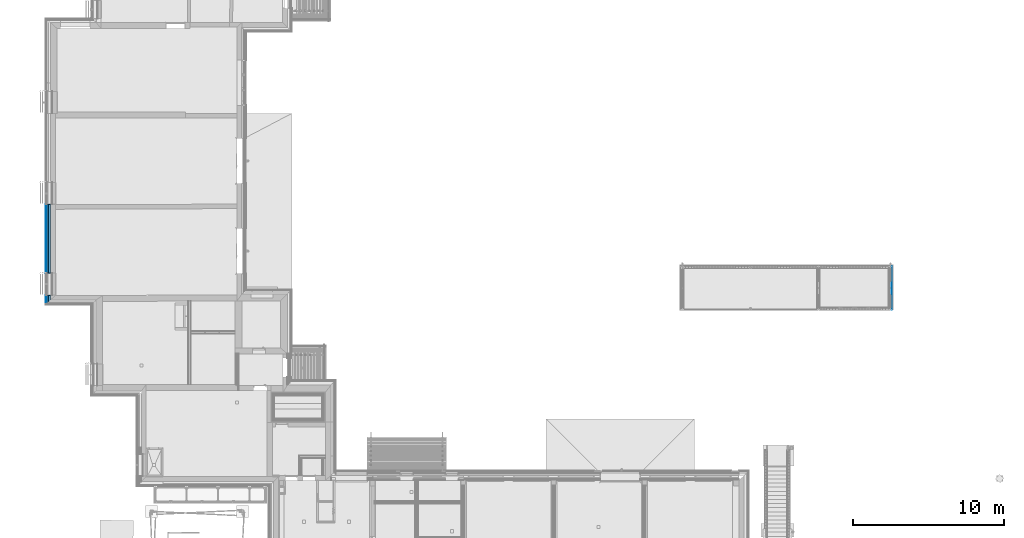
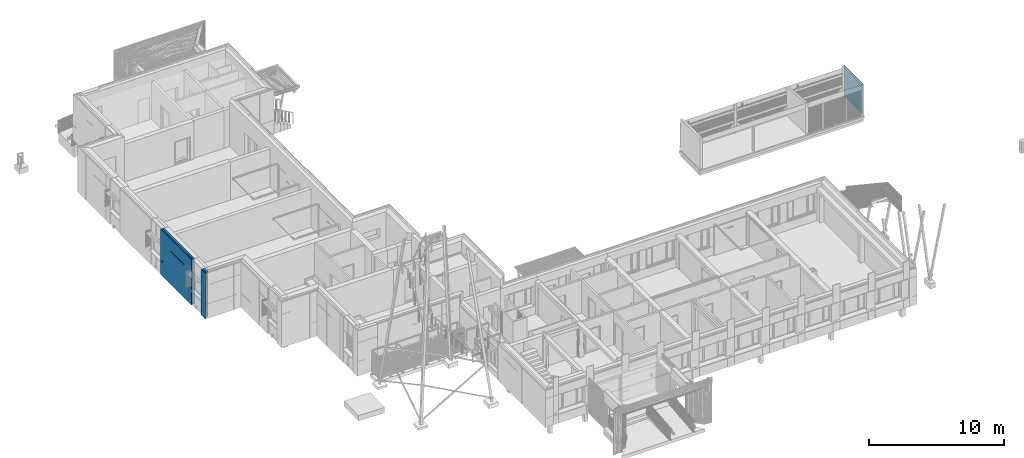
# One storey, part 126 of 418: 5 building element parts, 6 openings, 2 elements without a shape of their own.
"""IFC2X3 building model written with IfcOpenShell, lengths in millimetres."""

from ifc_helpers import new_model, entity, si_unit, converted_unit, derived_unit, money_unit, direction, frame, origin_with_axes, origin_2d_with_axis, place, context, subcontext, project, spatial, polyline, rectangle, outline, extrude, boolean, faceted_brep, material, type_object, element, aggregate, save


model = new_model("IFC2X3")

# Units and contexts
model_context = context("Model", 3, precision=0.01, world=origin_with_axes(), true_north=direction((0.0, 1.0)))
body_context = subcontext(model_context, "Body", "Model", "MODEL_VIEW")
ifc_project = project(units=[si_unit("LENGTHUNIT", "METRE", prefix="MILLI"), si_unit("AREAUNIT", "SQUARE_METRE"), si_unit("VOLUMEUNIT", "CUBIC_METRE"), converted_unit("PLANEANGLEUNIT", "DEGREE", entity("IfcPlaneAngleMeasure", 0.0174532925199), si_unit("PLANEANGLEUNIT", "RADIAN"), dimensions=[0, 0, 0, 0, 0, 0, 0]), si_unit("SOLIDANGLEUNIT", "STERADIAN"), money_unit("EUR"), converted_unit("TIMEUNIT", "Year", entity("IfcTimeMeasure", 31556926.0), si_unit("TIMEUNIT", "SECOND"), dimensions=[0, 0, 1, 0, 0, 0, 0]), si_unit("MASSUNIT", "GRAM", prefix="KILO"), si_unit("THERMODYNAMICTEMPERATUREUNIT", "DEGREE_CELSIUS"), si_unit("LUMINOUSINTENSITYUNIT", "LUMEN"), si_unit("ENERGYUNIT", "JOULE", prefix="MEGA"), derived_unit("THERMALCONDUCTANCEUNIT", [(si_unit("POWERUNIT", "WATT"), 1), (si_unit("LENGTHUNIT", "METRE"), -1), (si_unit("THERMODYNAMICTEMPERATUREUNIT", "KELVIN"), -1)]), derived_unit("SPECIFICHEATCAPACITYUNIT", [(si_unit("ENERGYUNIT", "JOULE"), 1), (si_unit("MASSUNIT", "GRAM", prefix="KILO"), -1), (si_unit("THERMODYNAMICTEMPERATUREUNIT", "KELVIN"), -1)]), derived_unit("MASSDENSITYUNIT", [(si_unit("MASSUNIT", "GRAM", prefix="KILO"), 1), (si_unit("VOLUMEUNIT", "CUBIC_METRE"), -1)])], contexts=[model_context])

# Site, building, storey
site_placement = place(None, origin_with_axes())
site = spatial("IfcSite", under=ifc_project, at=site_placement, Name="Paldiski mnt 245/1, Tallinn, Harjumaa", CompositionType="COMPLEX")
building_placement = place(site_placement, origin_with_axes())
building = spatial("IfcBuilding", under=site, at=building_placement, Name="RKAS Hoone üldnimetus (kasutust iseloomustav) -> IFC Project Manager -> SOLIBRI", CompositionType="ELEMENT")
storey_placement = place(building_placement, origin_with_axes())
storey = spatial("IfcBuildingStorey", under=building, at=storey_placement, Name="Esimene korrus", CompositionType="ELEMENT", Elevation=0.0)

# Wall, openings, building element parts
wall_type = type_object("IfcWallType", Name="VS-03H_uued_kihid 300", PredefinedType="NOTDEFINED")
wall_placement = place(storey_placement, frame((-62730.0, 11799.8287244, 0.0), z_axis=(0.0, 0.0, 1.0), x_axis=(0.0, 1.0, 0.0)))
wall = element("IfcWall", 1, at=wall_placement, inside=storey, type_object=wall_type, Name="VS-03")
opening_1_placement = place(wall_placement, frame((2855.0, 0.0, 0.0), z_axis=(0.0, 0.0, 1.0), x_axis=(1.0, 0.0, 0.0)))
element("IfcOpeningElement", 2, at=opening_1_placement, cuts=wall, Name="Cembrit fassaadiplaadi vuuk", context=body_context, shape_type="SweptSolid", body=[
    extrude(outline(polyline([(-4.0, 0.0), (4.0, 0.0), (4.0, 4090.0), (-4.0, 4090.0), (-4.0, 0.0)])), frame((0.0, 292.0, 0.0), z_axis=(0.0, -1.0, 0.0), x_axis=(1.0, 0.0, 0.0)), (0.0, 0.0, -1.0), 308.0),
])
opening_2_placement = place(wall_placement, frame((4055.0, -1.20792265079e-10, 0.0), z_axis=(0.0, 0.0, 1.0), x_axis=(1.0, 0.0, 0.0)))
element("IfcOpeningElement", 3, at=opening_2_placement, cuts=wall, Name="Cembrit fassaadiplaadi vuuk", context=body_context, shape_type="SweptSolid", body=[
    extrude(outline(polyline([(-4.0, 0.0), (4.0, 0.0), (4.0, 4090.0), (-4.0, 4090.0), (-4.0, 0.0)])), frame((0.0, 292.0, 0.0), z_axis=(0.0, -1.0, 0.0), x_axis=(1.0, 0.0, 0.0)), (0.0, 0.0, -1.0), 308.0),
])
opening_3_placement = place(wall_placement, frame((5255.0, -1.56319401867e-10, 0.0), z_axis=(0.0, 0.0, 1.0), x_axis=(1.0, 0.0, 0.0)))
element("IfcOpeningElement", 4, at=opening_3_placement, cuts=wall, Name="Cembrit fassaadiplaadi vuuk", context=body_context, shape_type="SweptSolid", body=[
    extrude(outline(polyline([(-4.0, 0.0), (4.0, 0.0), (4.0, 4090.0), (-4.0, 4090.0), (-4.0, 0.0)])), frame((0.0, 292.0, 0.0), z_axis=(0.0, -1.0, 0.0), x_axis=(1.0, 0.0, 0.0)), (0.0, 0.0, -1.0), 308.0),
])
opening_4_placement = place(wall_placement, frame((3015.00003798, 0.0, 2990.0), z_axis=(0.0, 0.0, 1.0), x_axis=(1.0, 0.0, 0.0)))
element("IfcOpeningElement", 5, at=opening_4_placement, cuts=wall, Name="Cembrit fassaadiplaadi vuuk", context=body_context, shape_type="SweptSolid", body=[
    extrude(outline(polyline([(-3315.00003798, 0.0), (3315.00003798, 0.0), (3315.00003798, 8.0), (-3315.00003798, 8.0), (-3315.00003798, 0.0)])), frame((0.0, 292.0, 0.0), z_axis=(0.0, -1.0, 0.0), x_axis=(1.0, 0.0, 0.0)), (0.0, 0.0, -1.0), 308.0),
])
opening_5_placement = place(wall_placement, frame((3015.00003798, 0.0, 1290.0), z_axis=(0.0, 0.0, 1.0), x_axis=(1.0, 0.0, 0.0)))
element("IfcOpeningElement", 6, at=opening_5_placement, cuts=wall, Name="Cembrit fassaadiplaadi vuuk", context=body_context, shape_type="SweptSolid", body=[
    extrude(outline(polyline([(-3315.00003798, 0.0), (3315.00003798, 0.0), (3315.00003798, 8.0), (-3315.00003798, 8.0), (-3315.00003798, 0.0)])), frame((0.0, 292.0, 0.0), z_axis=(0.0, -1.0, 0.0), x_axis=(1.0, 0.0, 0.0)), (0.0, 0.0, -1.0), 308.0),
])
opening_6_placement = place(wall_placement, frame((-11799.8287244, -62730.0, 0.0), z_axis=(0.0, 0.0, 1.0), x_axis=(0.0, -1.0, 0.0)))
element("IfcOpeningElement", 7, at=opening_6_placement, cuts=wall, Name="AVA", ObjectType="OPENING", context=body_context, shape_type="SweptSolid", body=[
    extrude(rectangle(XDim=1450.0, YDim=4090.0, at=origin_2d_with_axis()), frame((-62730.0, 12854.8287244, 2045.0), z_axis=(1.0, 0.0, 0.0), x_axis=(0.0, 1.0, 0.0)), (0.0, 0.0, -1.0), 600.0),
])
ifc_material_1 = material(Name="Cembrit_C020")
building_element_part_1_placement = place(wall_placement, origin_with_axes())
building_element_part_1 = element("IfcBuildingElementPart", 8, at=building_element_part_1_placement, material=ifc_material_1, Name="Cembrit_C020", context=body_context, shape_type="CSG", body=[
    boolean("DIFFERENCE", boolean("DIFFERENCE", boolean("DIFFERENCE", boolean("DIFFERENCE", boolean("DIFFERENCE", boolean("DIFFERENCE", boolean("DIFFERENCE", extrude(outline(polyline([(-300.0, 292.0), (6330.00007596, 292.0), (6330.00007596, 300.0), (-300.0, 300.0), (-300.0, 292.0)])), origin_with_axes(), (0.0, 0.0, 1.0), 4090.0), faceted_brep([(1002.51939453, 300.00961541, 170.0), (1002.51939453, 300.00961541, 350.0), (1099.48094513, 300.00961541, 350.0), (1099.48094513, 300.00961541, 170.0), (1005.43465613, 292.0, 170.0), (1005.43465613, 292.0, 350.0), (1096.56568353, 292.0, 350.0), (1096.56568353, 292.0, 170.0)], [[[0, 1, 2, 3]], [[4, 5, 1, 0]], [[5, 6, 2, 1]], [[6, 7, 3, 2]], [[7, 4, 0, 3]], [[4, 7, 6, 5]]])), faceted_brep([(1005.43465613, 292.0, 170.0), (1005.43465613, 292.0, 350.0), (1096.56568353, 292.0, 350.0), (1096.56568353, 292.0, 170.0), (1005.51168305, 291.788370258, 170.0), (1005.51168305, 291.788370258, 350.0), (1009.88611623, 284.211629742, 350.0), (1015.50977912, 277.509609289, 350.0), (1022.21179957, 271.885946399, 350.0), (1029.78854009, 267.511513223, 350.0), (1038.00978524, 264.519224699, 350.0), (1046.62573665, 263.0, 350.0), (1051.00016983, 263.0, 350.0), (1055.37460301, 263.0, 350.0), (1063.99055442, 264.519224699, 350.0), (1072.21179957, 267.511513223, 350.0), (1079.78854009, 271.885946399, 350.0), (1086.49056054, 277.509609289, 350.0), (1092.11422343, 284.211629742, 350.0), (1096.48865661, 291.788370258, 350.0), (1096.48865661, 291.788370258, 170.0), (1092.11422343, 284.211629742, 170.0), (1086.49056054, 277.509609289, 170.0), (1079.78854009, 271.885946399, 170.0), (1072.21179957, 267.511513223, 170.0), (1063.99055442, 264.519224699, 170.0), (1055.37460301, 263.0, 170.0), (1051.00016983, 263.0, 170.0), (1046.62573665, 263.0, 170.0), (1038.00978524, 264.519224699, 170.0), (1029.78854009, 267.511513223, 170.0), (1022.21179957, 271.885946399, 170.0), (1015.50977912, 277.509609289, 170.0), (1009.88611623, 284.211629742, 170.0)], [[[0, 1, 2, 3]], [[1, 0, 4, 5]], [[2, 1, 5, 6, 7, 8, 9, 10, 11, 12, 13, 14, 15, 16, 17, 18, 19]], [[3, 2, 19, 20]], [[0, 3, 20, 21, 22, 23, 24, 25, 26, 27, 28, 29, 30, 31, 32, 33, 4]], [[4, 33, 6, 5]], [[33, 32, 7, 6]], [[32, 31, 8, 7]], [[31, 30, 9, 8]], [[30, 29, 10, 9]], [[29, 28, 11, 10]], [[28, 27, 12, 11]], [[27, 26, 13, 12]], [[26, 25, 14, 13]], [[25, 24, 15, 14]], [[24, 23, 16, 15]], [[23, 22, 17, 16]], [[22, 21, 18, 17]], [[21, 20, 19, 18]]])), faceted_brep([(-292.0, 250.0, 0.0), (-292.0, 250.0, 4090.0), (-300.0, 250.0, 4090.0), (-300.0, 250.0, 0.0), (-292.0, 292.0, 4090.0), (-292.0, 292.0, 0.0), (-300.0, 292.0, 4090.0), (-300.0, 292.0, 0.0)], [[[0, 1, 2, 3]], [[4, 1, 0, 5]], [[1, 4, 6, 2]], [[6, 7, 3, 2]], [[5, 0, 3, 7]], [[4, 5, 7, 6]]])), faceted_brep([(1006.00016983, 250.0, 200.0), (1096.00016983, 250.0, 200.0), (1096.00016983, 250.0, 320.0), (1006.00016983, 250.0, 320.0), (1006.00016983, 260.0, 200.0), (1096.00016983, 260.0, 200.0), (1096.00016983, 260.0, 320.0), (1006.00016983, 260.0, 320.0)], [[[0, 1, 2, 3]], [[1, 0, 4, 5]], [[2, 1, 5, 6]], [[3, 2, 6, 7]], [[0, 3, 7, 4]], [[5, 4, 7, 6]]])), faceted_brep([(1006.00016983, 250.0, 200.0), (1006.00016983, 250.0, 320.0), (1096.00016983, 250.0, 320.0), (1096.00016983, 250.0, 200.0), (1006.00016983, 210.0, 200.0), (1006.00016983, 210.0, 320.0), (1096.00016983, 210.0, 320.0), (1096.00016983, 210.0, 200.0)], [[[0, 1, 2, 3]], [[1, 0, 4, 5]], [[2, 1, 5, 6]], [[3, 2, 6, 7]], [[0, 3, 7, 4]], [[7, 6, 5, 4]]])), faceted_brep([(-250.0, 150.0, 0.0), (-250.0, 150.0, 4090.0), (-300.0, 150.0, 4090.0), (-300.0, 150.0, 0.0), (-250.0, 250.0, 4090.0), (-250.0, 250.0, 0.0), (-300.0, 250.0, 4090.0), (-300.0, 250.0, 0.0)], [[[0, 1, 2, 3]], [[4, 1, 0, 5]], [[1, 4, 6, 2]], [[6, 7, 3, 2]], [[5, 0, 3, 7]], [[4, 5, 7, 6]]])), faceted_brep([(-150.0, 0.0, 0.0), (-150.0, 0.0, 4090.0), (-300.0, 0.0, 4090.0), (-300.0, 0.0, 0.0), (-150.0, 150.0, 4090.0), (-150.0, 150.0, 0.0), (-300.0, 150.0, 4090.0), (-300.0, 150.0, 0.0)], [[[0, 1, 2, 3]], [[4, 1, 0, 5]], [[1, 4, 6, 2]], [[6, 7, 3, 2]], [[5, 0, 3, 7]], [[4, 5, 7, 6]]])),
])
ifc_material_2 = material(Name="VKR-06_Õhkvahe")
building_element_part_2_placement = place(wall_placement, origin_with_axes())
building_element_part_2 = element("IfcBuildingElementPart", 9, at=building_element_part_2_placement, material=ifc_material_2, Name="VKR-06_Õhkvahe", context=body_context, shape_type="CSG", body=[
    boolean("DIFFERENCE", boolean("DIFFERENCE", boolean("DIFFERENCE", boolean("DIFFERENCE", boolean("DIFFERENCE", boolean("DIFFERENCE", boolean("DIFFERENCE", extrude(outline(polyline([(-300.0, 250.0), (6330.00007596, 250.0), (6330.00007596, 292.0), (-300.0, 292.0), (-300.0, 250.0)])), origin_with_axes(), (0.0, 0.0, 1.0), 4090.0), faceted_brep([(1002.51939453, 300.00961541, 170.0), (1002.51939453, 300.00961541, 350.0), (1099.48094513, 300.00961541, 350.0), (1099.48094513, 300.00961541, 170.0), (1005.43465613, 292.0, 170.0), (1005.43465613, 292.0, 350.0), (1096.56568353, 292.0, 350.0), (1096.56568353, 292.0, 170.0)], [[[0, 1, 2, 3]], [[4, 5, 1, 0]], [[5, 6, 2, 1]], [[6, 7, 3, 2]], [[7, 4, 0, 3]], [[4, 7, 6, 5]]])), faceted_brep([(1005.43465613, 292.0, 170.0), (1005.43465613, 292.0, 350.0), (1096.56568353, 292.0, 350.0), (1096.56568353, 292.0, 170.0), (1005.51168305, 291.788370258, 170.0), (1005.51168305, 291.788370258, 350.0), (1009.88611623, 284.211629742, 350.0), (1015.50977912, 277.509609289, 350.0), (1022.21179957, 271.885946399, 350.0), (1029.78854009, 267.511513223, 350.0), (1038.00978524, 264.519224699, 350.0), (1046.62573665, 263.0, 350.0), (1051.00016983, 263.0, 350.0), (1055.37460301, 263.0, 350.0), (1063.99055442, 264.519224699, 350.0), (1072.21179957, 267.511513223, 350.0), (1079.78854009, 271.885946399, 350.0), (1086.49056054, 277.509609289, 350.0), (1092.11422343, 284.211629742, 350.0), (1096.48865661, 291.788370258, 350.0), (1096.48865661, 291.788370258, 170.0), (1092.11422343, 284.211629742, 170.0), (1086.49056054, 277.509609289, 170.0), (1079.78854009, 271.885946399, 170.0), (1072.21179957, 267.511513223, 170.0), (1063.99055442, 264.519224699, 170.0), (1055.37460301, 263.0, 170.0), (1051.00016983, 263.0, 170.0), (1046.62573665, 263.0, 170.0), (1038.00978524, 264.519224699, 170.0), (1029.78854009, 267.511513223, 170.0), (1022.21179957, 271.885946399, 170.0), (1015.50977912, 277.509609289, 170.0), (1009.88611623, 284.211629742, 170.0)], [[[0, 1, 2, 3]], [[1, 0, 4, 5]], [[2, 1, 5, 6, 7, 8, 9, 10, 11, 12, 13, 14, 15, 16, 17, 18, 19]], [[3, 2, 19, 20]], [[0, 3, 20, 21, 22, 23, 24, 25, 26, 27, 28, 29, 30, 31, 32, 33, 4]], [[4, 33, 6, 5]], [[33, 32, 7, 6]], [[32, 31, 8, 7]], [[31, 30, 9, 8]], [[30, 29, 10, 9]], [[29, 28, 11, 10]], [[28, 27, 12, 11]], [[27, 26, 13, 12]], [[26, 25, 14, 13]], [[25, 24, 15, 14]], [[24, 23, 16, 15]], [[23, 22, 17, 16]], [[22, 21, 18, 17]], [[21, 20, 19, 18]]])), faceted_brep([(-292.0, 250.0, 0.0), (-292.0, 250.0, 4090.0), (-300.0, 250.0, 4090.0), (-300.0, 250.0, 0.0), (-292.0, 292.0, 4090.0), (-292.0, 292.0, 0.0), (-300.0, 292.0, 4090.0), (-300.0, 292.0, 0.0)], [[[0, 1, 2, 3]], [[4, 1, 0, 5]], [[1, 4, 6, 2]], [[6, 7, 3, 2]], [[5, 0, 3, 7]], [[4, 5, 7, 6]]])), faceted_brep([(1006.00016983, 250.0, 200.0), (1096.00016983, 250.0, 200.0), (1096.00016983, 250.0, 320.0), (1006.00016983, 250.0, 320.0), (1006.00016983, 260.0, 200.0), (1096.00016983, 260.0, 200.0), (1096.00016983, 260.0, 320.0), (1006.00016983, 260.0, 320.0)], [[[0, 1, 2, 3]], [[1, 0, 4, 5]], [[2, 1, 5, 6]], [[3, 2, 6, 7]], [[0, 3, 7, 4]], [[5, 4, 7, 6]]])), faceted_brep([(1006.00016983, 250.0, 200.0), (1006.00016983, 250.0, 320.0), (1096.00016983, 250.0, 320.0), (1096.00016983, 250.0, 200.0), (1006.00016983, 210.0, 200.0), (1006.00016983, 210.0, 320.0), (1096.00016983, 210.0, 320.0), (1096.00016983, 210.0, 200.0)], [[[0, 1, 2, 3]], [[1, 0, 4, 5]], [[2, 1, 5, 6]], [[3, 2, 6, 7]], [[0, 3, 7, 4]], [[7, 6, 5, 4]]])), faceted_brep([(-250.0, 150.0, 0.0), (-250.0, 150.0, 4090.0), (-300.0, 150.0, 4090.0), (-300.0, 150.0, 0.0), (-250.0, 250.0, 4090.0), (-250.0, 250.0, 0.0), (-300.0, 250.0, 4090.0), (-300.0, 250.0, 0.0)], [[[0, 1, 2, 3]], [[4, 1, 0, 5]], [[1, 4, 6, 2]], [[6, 7, 3, 2]], [[5, 0, 3, 7]], [[4, 5, 7, 6]]])), faceted_brep([(-150.0, 0.0, 0.0), (-150.0, 0.0, 4090.0), (-300.0, 0.0, 4090.0), (-300.0, 0.0, 0.0), (-150.0, 150.0, 4090.0), (-150.0, 150.0, 0.0), (-300.0, 150.0, 4090.0), (-300.0, 150.0, 0.0)], [[[0, 1, 2, 3]], [[4, 1, 0, 5]], [[1, 4, 6, 2]], [[6, 7, 3, 2]], [[5, 0, 3, 7]], [[4, 5, 7, 6]]])),
])
ifc_material_3 = material(Name="Kingspan Kooltherm")
building_element_part_3_placement = place(wall_placement, origin_with_axes())
building_element_part_3 = element("IfcBuildingElementPart", 10, at=building_element_part_3_placement, material=ifc_material_3, Name="Kingspan Kooltherm", context=body_context, shape_type="CSG", body=[
    boolean("DIFFERENCE", boolean("DIFFERENCE", boolean("DIFFERENCE", boolean("DIFFERENCE", boolean("DIFFERENCE", boolean("DIFFERENCE", boolean("DIFFERENCE", extrude(outline(polyline([(-300.0, 150.0), (6330.00007596, 150.0), (6330.00007596, 250.0), (-300.0, 250.0), (-300.0, 150.0)])), origin_with_axes(), (0.0, 0.0, 1.0), 4090.0), faceted_brep([(1002.51939453, 300.00961541, 170.0), (1002.51939453, 300.00961541, 350.0), (1099.48094513, 300.00961541, 350.0), (1099.48094513, 300.00961541, 170.0), (1005.43465613, 292.0, 170.0), (1005.43465613, 292.0, 350.0), (1096.56568353, 292.0, 350.0), (1096.56568353, 292.0, 170.0)], [[[0, 1, 2, 3]], [[4, 5, 1, 0]], [[5, 6, 2, 1]], [[6, 7, 3, 2]], [[7, 4, 0, 3]], [[4, 7, 6, 5]]])), faceted_brep([(1005.43465613, 292.0, 170.0), (1005.43465613, 292.0, 350.0), (1096.56568353, 292.0, 350.0), (1096.56568353, 292.0, 170.0), (1005.51168305, 291.788370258, 170.0), (1005.51168305, 291.788370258, 350.0), (1009.88611623, 284.211629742, 350.0), (1015.50977912, 277.509609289, 350.0), (1022.21179957, 271.885946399, 350.0), (1029.78854009, 267.511513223, 350.0), (1038.00978524, 264.519224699, 350.0), (1046.62573665, 263.0, 350.0), (1051.00016983, 263.0, 350.0), (1055.37460301, 263.0, 350.0), (1063.99055442, 264.519224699, 350.0), (1072.21179957, 267.511513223, 350.0), (1079.78854009, 271.885946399, 350.0), (1086.49056054, 277.509609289, 350.0), (1092.11422343, 284.211629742, 350.0), (1096.48865661, 291.788370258, 350.0), (1096.48865661, 291.788370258, 170.0), (1092.11422343, 284.211629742, 170.0), (1086.49056054, 277.509609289, 170.0), (1079.78854009, 271.885946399, 170.0), (1072.21179957, 267.511513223, 170.0), (1063.99055442, 264.519224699, 170.0), (1055.37460301, 263.0, 170.0), (1051.00016983, 263.0, 170.0), (1046.62573665, 263.0, 170.0), (1038.00978524, 264.519224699, 170.0), (1029.78854009, 267.511513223, 170.0), (1022.21179957, 271.885946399, 170.0), (1015.50977912, 277.509609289, 170.0), (1009.88611623, 284.211629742, 170.0)], [[[0, 1, 2, 3]], [[1, 0, 4, 5]], [[2, 1, 5, 6, 7, 8, 9, 10, 11, 12, 13, 14, 15, 16, 17, 18, 19]], [[3, 2, 19, 20]], [[0, 3, 20, 21, 22, 23, 24, 25, 26, 27, 28, 29, 30, 31, 32, 33, 4]], [[4, 33, 6, 5]], [[33, 32, 7, 6]], [[32, 31, 8, 7]], [[31, 30, 9, 8]], [[30, 29, 10, 9]], [[29, 28, 11, 10]], [[28, 27, 12, 11]], [[27, 26, 13, 12]], [[26, 25, 14, 13]], [[25, 24, 15, 14]], [[24, 23, 16, 15]], [[23, 22, 17, 16]], [[22, 21, 18, 17]], [[21, 20, 19, 18]]])), faceted_brep([(-292.0, 250.0, 0.0), (-292.0, 250.0, 4090.0), (-300.0, 250.0, 4090.0), (-300.0, 250.0, 0.0), (-292.0, 292.0, 4090.0), (-292.0, 292.0, 0.0), (-300.0, 292.0, 4090.0), (-300.0, 292.0, 0.0)], [[[0, 1, 2, 3]], [[4, 1, 0, 5]], [[1, 4, 6, 2]], [[6, 7, 3, 2]], [[5, 0, 3, 7]], [[4, 5, 7, 6]]])), faceted_brep([(1006.00016983, 250.0, 200.0), (1096.00016983, 250.0, 200.0), (1096.00016983, 250.0, 320.0), (1006.00016983, 250.0, 320.0), (1006.00016983, 260.0, 200.0), (1096.00016983, 260.0, 200.0), (1096.00016983, 260.0, 320.0), (1006.00016983, 260.0, 320.0)], [[[0, 1, 2, 3]], [[1, 0, 4, 5]], [[2, 1, 5, 6]], [[3, 2, 6, 7]], [[0, 3, 7, 4]], [[5, 4, 7, 6]]])), faceted_brep([(1006.00016983, 250.0, 200.0), (1006.00016983, 250.0, 320.0), (1096.00016983, 250.0, 320.0), (1096.00016983, 250.0, 200.0), (1006.00016983, 210.0, 200.0), (1006.00016983, 210.0, 320.0), (1096.00016983, 210.0, 320.0), (1096.00016983, 210.0, 200.0)], [[[0, 1, 2, 3]], [[1, 0, 4, 5]], [[2, 1, 5, 6]], [[3, 2, 6, 7]], [[0, 3, 7, 4]], [[7, 6, 5, 4]]])), faceted_brep([(-250.0, 150.0, 0.0), (-250.0, 150.0, 4090.0), (-300.0, 150.0, 4090.0), (-300.0, 150.0, 0.0), (-250.0, 250.0, 4090.0), (-250.0, 250.0, 0.0), (-300.0, 250.0, 4090.0), (-300.0, 250.0, 0.0)], [[[0, 1, 2, 3]], [[4, 1, 0, 5]], [[1, 4, 6, 2]], [[6, 7, 3, 2]], [[5, 0, 3, 7]], [[4, 5, 7, 6]]])), faceted_brep([(-150.0, 0.0, 0.0), (-150.0, 0.0, 4090.0), (-300.0, 0.0, 4090.0), (-300.0, 0.0, 0.0), (-150.0, 150.0, 4090.0), (-150.0, 150.0, 0.0), (-300.0, 150.0, 4090.0), (-300.0, 150.0, 0.0)], [[[0, 1, 2, 3]], [[4, 1, 0, 5]], [[1, 4, 6, 2]], [[6, 7, 3, 2]], [[5, 0, 3, 7]], [[4, 5, 7, 6]]])),
])
building_element_part_4_placement = place(wall_placement, origin_with_axes())
building_element_part_4 = element("IfcBuildingElementPart", 11, at=building_element_part_4_placement, material=ifc_material_3, Name="Kingspan Kooltherm", context=body_context, shape_type="CSG", body=[
    boolean("DIFFERENCE", boolean("DIFFERENCE", boolean("DIFFERENCE", boolean("DIFFERENCE", boolean("DIFFERENCE", boolean("DIFFERENCE", boolean("DIFFERENCE", extrude(outline(polyline([(-300.0, 0.0), (6330.00007596, 0.0), (6330.00007596, 150.0), (-300.0, 150.0), (-300.0, 0.0)])), origin_with_axes(), (0.0, 0.0, 1.0), 4090.0), faceted_brep([(1002.51939453, 300.00961541, 170.0), (1002.51939453, 300.00961541, 350.0), (1099.48094513, 300.00961541, 350.0), (1099.48094513, 300.00961541, 170.0), (1005.43465613, 292.0, 170.0), (1005.43465613, 292.0, 350.0), (1096.56568353, 292.0, 350.0), (1096.56568353, 292.0, 170.0)], [[[0, 1, 2, 3]], [[4, 5, 1, 0]], [[5, 6, 2, 1]], [[6, 7, 3, 2]], [[7, 4, 0, 3]], [[4, 7, 6, 5]]])), faceted_brep([(1005.43465613, 292.0, 170.0), (1005.43465613, 292.0, 350.0), (1096.56568353, 292.0, 350.0), (1096.56568353, 292.0, 170.0), (1005.51168305, 291.788370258, 170.0), (1005.51168305, 291.788370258, 350.0), (1009.88611623, 284.211629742, 350.0), (1015.50977912, 277.509609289, 350.0), (1022.21179957, 271.885946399, 350.0), (1029.78854009, 267.511513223, 350.0), (1038.00978524, 264.519224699, 350.0), (1046.62573665, 263.0, 350.0), (1051.00016983, 263.0, 350.0), (1055.37460301, 263.0, 350.0), (1063.99055442, 264.519224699, 350.0), (1072.21179957, 267.511513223, 350.0), (1079.78854009, 271.885946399, 350.0), (1086.49056054, 277.509609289, 350.0), (1092.11422343, 284.211629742, 350.0), (1096.48865661, 291.788370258, 350.0), (1096.48865661, 291.788370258, 170.0), (1092.11422343, 284.211629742, 170.0), (1086.49056054, 277.509609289, 170.0), (1079.78854009, 271.885946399, 170.0), (1072.21179957, 267.511513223, 170.0), (1063.99055442, 264.519224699, 170.0), (1055.37460301, 263.0, 170.0), (1051.00016983, 263.0, 170.0), (1046.62573665, 263.0, 170.0), (1038.00978524, 264.519224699, 170.0), (1029.78854009, 267.511513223, 170.0), (1022.21179957, 271.885946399, 170.0), (1015.50977912, 277.509609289, 170.0), (1009.88611623, 284.211629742, 170.0)], [[[0, 1, 2, 3]], [[1, 0, 4, 5]], [[2, 1, 5, 6, 7, 8, 9, 10, 11, 12, 13, 14, 15, 16, 17, 18, 19]], [[3, 2, 19, 20]], [[0, 3, 20, 21, 22, 23, 24, 25, 26, 27, 28, 29, 30, 31, 32, 33, 4]], [[4, 33, 6, 5]], [[33, 32, 7, 6]], [[32, 31, 8, 7]], [[31, 30, 9, 8]], [[30, 29, 10, 9]], [[29, 28, 11, 10]], [[28, 27, 12, 11]], [[27, 26, 13, 12]], [[26, 25, 14, 13]], [[25, 24, 15, 14]], [[24, 23, 16, 15]], [[23, 22, 17, 16]], [[22, 21, 18, 17]], [[21, 20, 19, 18]]])), faceted_brep([(-292.0, 250.0, 0.0), (-292.0, 250.0, 4090.0), (-300.0, 250.0, 4090.0), (-300.0, 250.0, 0.0), (-292.0, 292.0, 4090.0), (-292.0, 292.0, 0.0), (-300.0, 292.0, 4090.0), (-300.0, 292.0, 0.0)], [[[0, 1, 2, 3]], [[4, 1, 0, 5]], [[1, 4, 6, 2]], [[6, 7, 3, 2]], [[5, 0, 3, 7]], [[4, 5, 7, 6]]])), faceted_brep([(1006.00016983, 250.0, 200.0), (1096.00016983, 250.0, 200.0), (1096.00016983, 250.0, 320.0), (1006.00016983, 250.0, 320.0), (1006.00016983, 260.0, 200.0), (1096.00016983, 260.0, 200.0), (1096.00016983, 260.0, 320.0), (1006.00016983, 260.0, 320.0)], [[[0, 1, 2, 3]], [[1, 0, 4, 5]], [[2, 1, 5, 6]], [[3, 2, 6, 7]], [[0, 3, 7, 4]], [[5, 4, 7, 6]]])), faceted_brep([(1006.00016983, 250.0, 200.0), (1006.00016983, 250.0, 320.0), (1096.00016983, 250.0, 320.0), (1096.00016983, 250.0, 200.0), (1006.00016983, 210.0, 200.0), (1006.00016983, 210.0, 320.0), (1096.00016983, 210.0, 320.0), (1096.00016983, 210.0, 200.0)], [[[0, 1, 2, 3]], [[1, 0, 4, 5]], [[2, 1, 5, 6]], [[3, 2, 6, 7]], [[0, 3, 7, 4]], [[7, 6, 5, 4]]])), faceted_brep([(-250.0, 150.0, 0.0), (-250.0, 150.0, 4090.0), (-300.0, 150.0, 4090.0), (-300.0, 150.0, 0.0), (-250.0, 250.0, 4090.0), (-250.0, 250.0, 0.0), (-300.0, 250.0, 4090.0), (-300.0, 250.0, 0.0)], [[[0, 1, 2, 3]], [[4, 1, 0, 5]], [[1, 4, 6, 2]], [[6, 7, 3, 2]], [[5, 0, 3, 7]], [[4, 5, 7, 6]]])), faceted_brep([(-150.0, 0.0, 0.0), (-150.0, 0.0, 4090.0), (-300.0, 0.0, 4090.0), (-300.0, 0.0, 0.0), (-150.0, 150.0, 4090.0), (-150.0, 150.0, 0.0), (-300.0, 150.0, 4090.0), (-300.0, 150.0, 0.0)], [[[0, 1, 2, 3]], [[4, 1, 0, 5]], [[1, 4, 6, 2]], [[6, 7, 3, 2]], [[5, 0, 3, 7]], [[4, 5, 7, 6]]])),
])
aggregate(wall, [building_element_part_1, building_element_part_2, building_element_part_3, building_element_part_4])

# Proxy, building element part
building_element_proxy_type = type_object("IfcBuildingElementProxyType", Name="Pürgimaja_varjualuse_välissein 190", PredefinedType="NOTDEFINED")
proxy_placement = place(storey_placement, frame((-7224.27180125, 14039.7949578, -960.0), z_axis=(0.0, 0.0, 1.0), x_axis=(0.0, -1.0, 0.0)))
proxy = element("IfcBuildingElementProxy", 12, at=proxy_placement, inside=storey, type_object=building_element_proxy_type, Name="Välissein_1")
ifc_material_4 = material(Name="Voodrilaud UYS 21x120mm")
building_element_part_5_placement = place(proxy_placement, origin_with_axes())
building_element_part_5 = element("IfcBuildingElementPart", 13, at=building_element_part_5_placement, material=ifc_material_4, Name="Voodrilaud UYS 21x120mm", context=body_context, shape_type="CSG", body=[
    boolean("DIFFERENCE", boolean("DIFFERENCE", boolean("DIFFERENCE", boolean("DIFFERENCE", boolean("DIFFERENCE", extrude(outline(polyline([(0.0, 75.0), (2890.00000143, 75.0), (2890.00000143, 95.0), (0.0, 95.0), (0.0, 75.0)])), origin_with_axes(), (0.0, 0.0, 1.0), 2758.66825202), faceted_brep([(0.999999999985, -75.0, 0.0), (0.999999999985, -75.0, 2752.59465133), (0.0, -75.0, 2752.59465133), (0.0, -75.0, 2758.66825202), (2890.00000143, -75.0, 2758.66825202), (2890.00000143, -75.0, 0.0), (2869.99998425, -74.9999999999, 0.0), (2869.99998425, -74.9999999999, 2752.59465133), (21.0, -75.0, 2752.59465133), (21.0, -75.0, 0.0), (0.999999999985, -94.9999915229, 0.0), (0.999999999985, -94.9999915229, 2752.59465133), (0.0, -95.0, 2752.59465133), (0.0, -95.0, 2758.66825202), (2890.00000143, -95.0, 2758.66825202), (2890.00000143, -95.0, 0.0), (2869.99998425, -94.9999915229, 0.0), (2869.99998425, -94.9999915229, 2752.59465133), (21.0, -94.9999915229, 2752.59465133), (21.0, -94.9999915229, 0.0)], [[[0, 1, 2, 3, 4, 5, 6, 7, 8, 9]], [[1, 0, 10, 11]], [[12, 2, 1, 11]], [[2, 12, 13, 3]], [[3, 13, 14, 4]], [[14, 15, 5, 4]], [[16, 6, 5, 15]], [[7, 6, 16, 17]], [[8, 7, 17, 18]], [[9, 8, 18, 19]], [[10, 0, 9, 19]], [[11, 10, 19, 18, 17, 16, 15, 14, 13, 12]]])), faceted_brep([(0.0, -75.0, 2752.59465133), (0.999999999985, -75.0, 2752.59465133), (0.999999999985, -75.0, 0.0), (2890.00000143, -75.0, 0.0), (2890.00000143, -75.0, 2758.66825202), (0.0, -75.0, 2758.66825202), (2869.99998425, -75.0, 2702.59465133), (2869.99998425, -75.0, 1402.59465133), (21.0, -75.0, 1402.59465133), (21.0, -75.0, 2702.59465133), (2869.99998425, -74.9999957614, 50.0), (21.0, -74.9999957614, 50.0), (21.0, -75.0, 1352.59465133), (2869.99998425, -75.0, 1352.59465133), (0.0, 75.0, 2752.59465133), (0.999999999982, 75.0, 2752.59465133), (0.999999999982, 75.0, 0.0), (2890.00000143, 75.0, 0.0), (2890.00000143, 75.0, 2758.66825202), (0.0, 75.0, 2758.66825202), (2869.99998425, 75.0, 2702.59465133), (2869.99998425, 75.0, 1402.59465133), (21.0, 75.0, 1402.59465133), (21.0, 75.0, 2702.59465133), (2869.99998425, 75.0000042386, 50.0), (21.0, 75.0000042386, 50.0), (21.0, 75.0, 1352.59465133), (2869.99998425, 75.0, 1352.59465133)], [[[0, 1, 2, 3, 4, 5], [6, 7, 8, 9], [10, 11, 12, 13]], [[1, 0, 14, 15]], [[1, 15, 16, 2]], [[3, 2, 16, 17]], [[18, 4, 3, 17]], [[18, 19, 5, 4]], [[19, 14, 0, 5]], [[6, 20, 21, 7]], [[7, 21, 22, 8]], [[8, 22, 23, 9]], [[9, 23, 20, 6]], [[24, 25, 11, 10]], [[25, 26, 12, 11]], [[26, 27, 13, 12]], [[27, 24, 10, 13]], [[17, 16, 15, 14, 19, 18], [22, 21, 20, 23], [24, 27, 26, 25]]])), faceted_brep([(2720.0, 25.0, 750.934656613), (2720.0, -25.0, 750.934656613), (2119.06534339, -25.0, 150.0), (2119.06534339, 25.0, 150.0), (2720.0, 25.0, 963.066690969), (2720.0, -25.0, 963.066690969), (1906.93330903, -25.0, 150.0), (1906.93330903, 25.0, 150.0)], [[[0, 1, 2, 3]], [[0, 4, 5, 1]], [[1, 5, 6, 2]], [[3, 2, 6, 7]], [[4, 0, 3, 7]], [[5, 4, 7, 6]]])), faceted_brep([(170.0, 25.0, 963.066690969), (170.0, -25.0, 963.066690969), (983.066690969, -25.0, 150.0), (983.066690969, 25.0, 150.0), (170.0, 25.0, 750.934656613), (170.0, -25.0, 750.934656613), (770.934656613, -25.0, 150.0), (770.934656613, 25.0, 150.0)], [[[0, 1, 2, 3]], [[0, 4, 5, 1]], [[1, 5, 6, 2]], [[3, 2, 6, 7]], [[4, 0, 3, 7]], [[5, 4, 7, 6]]])), faceted_brep([(0.999999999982, 95.0, 0.0), (0.999999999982, 95.0, 2752.59465133), (0.0, 95.0, 2752.59465133), (0.0, 95.0, 2758.66825202), (2890.00000143, 95.0, 2758.66825202), (2890.00000143, 95.0, 0.0), (2869.99998425, 95.0, 0.0), (2869.99998425, 95.0, 2752.59465133), (21.0, 95.0, 2752.59465133), (21.0, 95.0, 0.0), (0.999999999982, 75.0, 0.0), (0.999999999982, 75.0, 2752.59465133), (0.0, 75.0, 2752.59465133), (0.0, 75.0, 2758.66825202), (2890.00000143, 75.0, 2758.66825202), (2890.00000143, 75.0, 0.0), (2869.99998425, 75.0000000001, 0.0), (2869.99998425, 75.0000000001, 2752.59465133), (21.0, 75.0, 2752.59465133), (21.0, 75.0, 0.0)], [[[0, 1, 2, 3, 4, 5, 6, 7, 8, 9]], [[1, 0, 10, 11]], [[12, 2, 1, 11]], [[2, 12, 13, 3]], [[3, 13, 14, 4]], [[14, 15, 5, 4]], [[16, 6, 5, 15]], [[7, 6, 16, 17]], [[8, 7, 17, 18]], [[9, 8, 18, 19]], [[10, 0, 9, 19]], [[11, 10, 19, 18, 17, 16, 15, 14, 13, 12]]])),
])
aggregate(proxy, [building_element_part_5])

save(model, "model.ifc")
